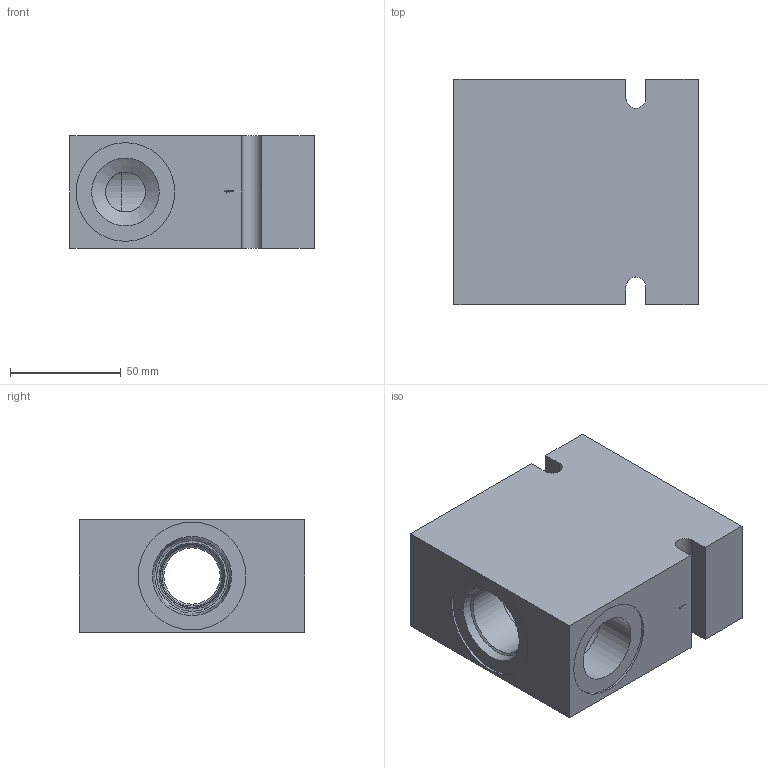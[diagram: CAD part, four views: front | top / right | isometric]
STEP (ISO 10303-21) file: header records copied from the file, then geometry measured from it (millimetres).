
FILE_DESCRIPTION( ( 'Unknown' ), '1' );
FILE_NAME( 'G:/Graphic Design/Graphic Design 2/Data Sheets/Delta Bodies/DRAWINGS/B-DSKE3.stp', 'Unknown', ( 'Unknown' ), ( 'Unknown' ), 'PSStep 16.0.42', 'Unknown', ' ' );
FILE_SCHEMA( ( 'AUTOMOTIVE_DESIGN { 1 0 10303 214 1 1 1 1 }' ) );
Length unit declared in the file: millimetre
Products named in the file (2): Assem1; B-DSKE3
Assembly tree (1 placements, depth 2):
  Assem1
    B-DSKE3
Bounding box: 110 x 101.6 x 50.8 mm (x, y, z)
Surface area: 59836 mm2 (no closed solid volume)
Topology: 0 solids, 128 shells, 128 faces, 634 edges, 606 vertices
Faces by surface type: plane 96, cylinder 24, cone 8
Full cylindrical faces by diameter (mm): 0.2 x3, 18 x1, 25.4 x1, 27.051 x1, 28.6 x1, 28.651 x1, 30.5 x6, 31.806 x2, 44.45 x3, 48.514 x1
Entity records: 7330 total; most frequent: CARTESIAN_POINT 2204, DIRECTION 658, ORIENTED_EDGE 592, EDGE_CURVE 592, VERTEX_POINT 592, B_SPLINE_CURVE_WITH_KNOTS 288, AXIS2_PLACEMENT_3D 224, LINE 210
